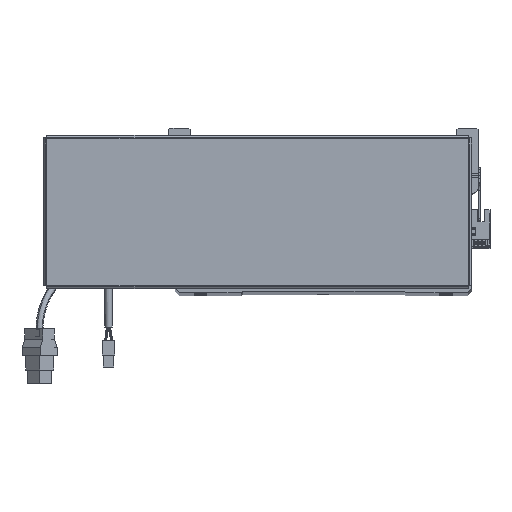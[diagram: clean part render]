
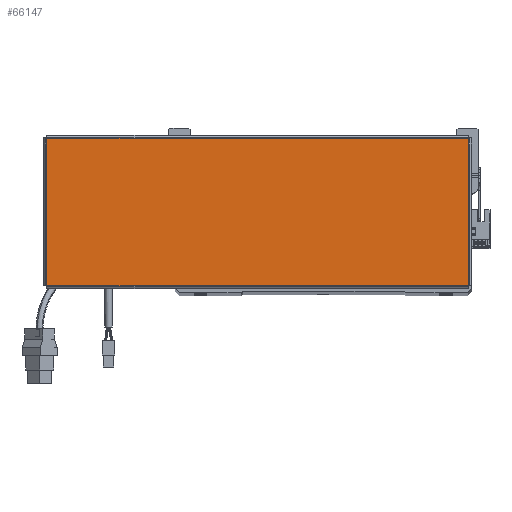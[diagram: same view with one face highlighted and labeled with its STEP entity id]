
A CAD part, top view. The second image highlights one B-rep face of the part: STEP entity #66147.
In plain terms, the highlighted planar face has unit normal (0, 0, 1).
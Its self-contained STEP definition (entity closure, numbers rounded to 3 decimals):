
#912 = VERTEX_POINT ( 'NONE', #56457 ) ;
#6484 = VECTOR ( 'NONE', #55017, 1000. ) ;
#7981 = PLANE ( 'NONE',  #66028 ) ;
#11180 = VECTOR ( 'NONE', #20905, 1000. ) ;
#11243 = ORIENTED_EDGE ( 'NONE', *, *, #65593, .T. ) ;
#18678 = VERTEX_POINT ( 'NONE', #50433 ) ;
#20070 = ORIENTED_EDGE ( 'NONE', *, *, #34863, .T. ) ;
#20685 = DIRECTION ( 'NONE',  ( 1., 0., 0. ) ) ;
#20905 = DIRECTION ( 'NONE',  ( 0., 1., 0. ) ) ;
#22264 = LINE ( 'NONE', #35027, #24011 ) ;
#22771 = LINE ( 'NONE', #48919, #50643 ) ;
#24011 = VECTOR ( 'NONE', #67867, 1000. ) ;
#26473 = LINE ( 'NONE', #26990, #6484 ) ;
#26858 = LINE ( 'NONE', #41406, #11180 ) ;
#26990 = CARTESIAN_POINT ( 'NONE',  ( 156.543, 54.763, 0. ) ) ;
#31036 = CARTESIAN_POINT ( 'NONE',  ( 0., 0., 0. ) ) ;
#31830 = ORIENTED_EDGE ( 'NONE', *, *, #52651, .T. ) ;
#34863 = EDGE_CURVE ( 'NONE', #60926, #38630, #26473, .T. ) ;
#35027 = CARTESIAN_POINT ( 'NONE',  ( -156.513, 54.793, 0. ) ) ;
#36174 = DIRECTION ( 'NONE',  ( 0., 0., 1. ) ) ;
#38630 = VERTEX_POINT ( 'NONE', #52640 ) ;
#41406 = CARTESIAN_POINT ( 'NONE',  ( 156.513, -54.793, 0. ) ) ;
#44281 = FACE_OUTER_BOUND ( 'NONE', #47369, .T. ) ;
#47369 = EDGE_LOOP ( 'NONE', ( #31830, #11243, #20070, #70599 ) ) ;
#48919 = CARTESIAN_POINT ( 'NONE',  ( -156.543, -54.763, 0. ) ) ;
#50433 = CARTESIAN_POINT ( 'NONE',  ( 156.513, -54.763, 0. ) ) ;
#50643 = VECTOR ( 'NONE', #20685, 1000. ) ;
#52640 = CARTESIAN_POINT ( 'NONE',  ( -156.513, 54.763, 0. ) ) ;
#52651 = EDGE_CURVE ( 'NONE', #912, #18678, #22771, .T. ) ;
#52963 = CARTESIAN_POINT ( 'NONE',  ( 156.513, 54.763, 0. ) ) ;
#55017 = DIRECTION ( 'NONE',  ( -1., 0., 0. ) ) ;
#56457 = CARTESIAN_POINT ( 'NONE',  ( -156.513, -54.763, 0. ) ) ;
#57847 = DIRECTION ( 'NONE',  ( 1., 0., 0. ) ) ;
#60926 = VERTEX_POINT ( 'NONE', #52963 ) ;
#65593 = EDGE_CURVE ( 'NONE', #18678, #60926, #26858, .T. ) ;
#66028 = AXIS2_PLACEMENT_3D ( 'NONE', #31036, #36174, #57847 ) ;
#66147 = ADVANCED_FACE ( 'NONE', ( #44281 ), #7981, .T. ) ;
#67867 = DIRECTION ( 'NONE',  ( 0., -1., 0. ) ) ;
#68091 = EDGE_CURVE ( 'NONE', #38630, #912, #22264, .T. ) ;
#70599 = ORIENTED_EDGE ( 'NONE', *, *, #68091, .T. ) ;
